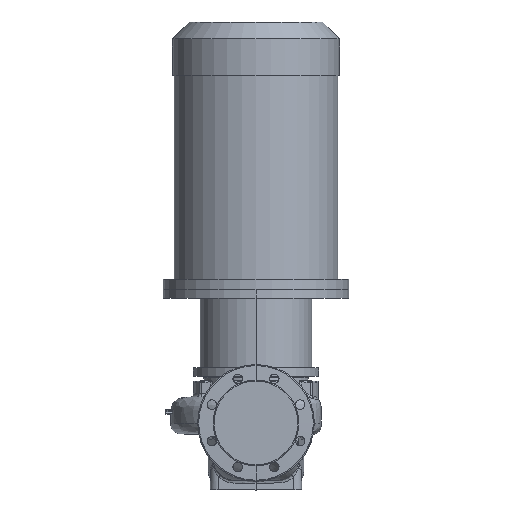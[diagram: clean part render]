
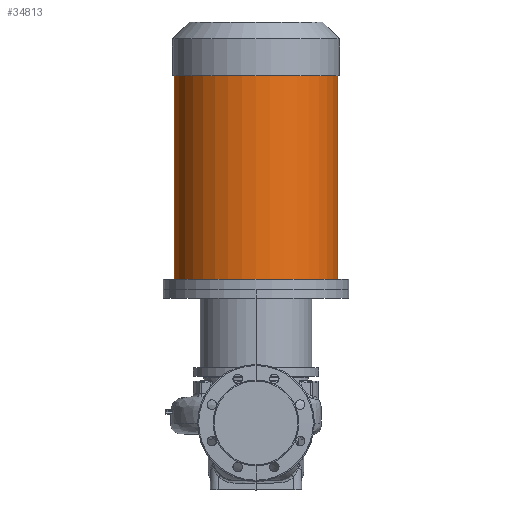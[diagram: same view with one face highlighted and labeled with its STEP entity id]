
A CAD part, top view. The second image highlights one B-rep face of the part: STEP entity #34813.
In plain terms, the highlighted cylindrical face has radius 154.5 mm (diameter 309 mm), a partial arc.
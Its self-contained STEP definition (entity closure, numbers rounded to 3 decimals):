
#1259 = AXIS2_PLACEMENT_3D ( 'NONE', #56736, #48034, #47449 ) ;
#2999 = AXIS2_PLACEMENT_3D ( 'NONE', #6621, #6996, #7381 ) ;
#6217 = EDGE_LOOP ( 'NONE', ( #49752, #41512, #32242, #20221 ) ) ;
#6621 = CARTESIAN_POINT ( 'NONE',  ( 0., 251.3, 0. ) ) ;
#6641 = VERTEX_POINT ( 'NONE', #35843 ) ;
#6996 = DIRECTION ( 'NONE',  ( 0., -1., 0. ) ) ;
#7381 = DIRECTION ( 'NONE',  ( -1., 0., 0. ) ) ;
#11340 = CYLINDRICAL_SURFACE ( 'NONE', #2999, 154.5 ) ;
#12952 = CARTESIAN_POINT ( 'NONE',  ( -154.5, 655.3, 0. ) ) ;
#16706 = EDGE_CURVE ( 'NONE', #48007, #6641, #22058, .T. ) ;
#17397 = EDGE_CURVE ( 'NONE', #38408, #54979, #42182, .T. ) ;
#18173 = AXIS2_PLACEMENT_3D ( 'NONE', #42382, #33646, #24512 ) ;
#20221 = ORIENTED_EDGE ( 'NONE', *, *, #49879, .F. ) ;
#22058 = LINE ( 'NONE', #35184, #53288 ) ;
#24512 = DIRECTION ( 'NONE',  ( -1., 0., 0. ) ) ;
#24637 = CARTESIAN_POINT ( 'NONE',  ( 154.5, 655.3, 0. ) ) ;
#25542 = CIRCLE ( 'NONE', #18173, 154.5 ) ;
#30373 = VECTOR ( 'NONE', #40529, 1000. ) ;
#32242 = ORIENTED_EDGE ( 'NONE', *, *, #16706, .T. ) ;
#33646 = DIRECTION ( 'NONE',  ( 0., -1., 0. ) ) ;
#34813 = ADVANCED_FACE ( 'NONE', ( #50181 ), #11340, .T. ) ;
#35184 = CARTESIAN_POINT ( 'NONE',  ( -154.5, 251.3, 0. ) ) ;
#35843 = CARTESIAN_POINT ( 'NONE',  ( -154.5, 271.3, 0. ) ) ;
#38408 = VERTEX_POINT ( 'NONE', #24637 ) ;
#39462 = DIRECTION ( 'NONE',  ( 0., -1., 0. ) ) ;
#40529 = DIRECTION ( 'NONE',  ( 0., -1., 0. ) ) ;
#40803 = CARTESIAN_POINT ( 'NONE',  ( 154.5, 271.3, 0. ) ) ;
#41512 = ORIENTED_EDGE ( 'NONE', *, *, #45290, .T. ) ;
#42182 = LINE ( 'NONE', #53142, #30373 ) ;
#42382 = CARTESIAN_POINT ( 'NONE',  ( 0., 655.3, 0. ) ) ;
#45290 = EDGE_CURVE ( 'NONE', #38408, #48007, #25542, .T. ) ;
#47449 = DIRECTION ( 'NONE',  ( -1., 0., 0. ) ) ;
#48007 = VERTEX_POINT ( 'NONE', #12952 ) ;
#48034 = DIRECTION ( 'NONE',  ( 0., -1., 0. ) ) ;
#49752 = ORIENTED_EDGE ( 'NONE', *, *, #17397, .F. ) ;
#49879 = EDGE_CURVE ( 'NONE', #54979, #6641, #52155, .T. ) ;
#50181 = FACE_OUTER_BOUND ( 'NONE', #6217, .T. ) ;
#52155 = CIRCLE ( 'NONE', #1259, 154.5 ) ;
#53142 = CARTESIAN_POINT ( 'NONE',  ( 154.5, 251.3, 0. ) ) ;
#53288 = VECTOR ( 'NONE', #39462, 1000. ) ;
#54979 = VERTEX_POINT ( 'NONE', #40803 ) ;
#56736 = CARTESIAN_POINT ( 'NONE',  ( 0., 271.3, 0. ) ) ;
